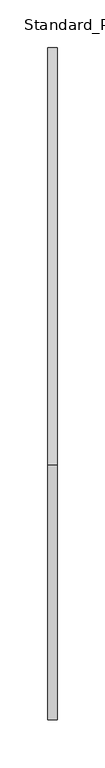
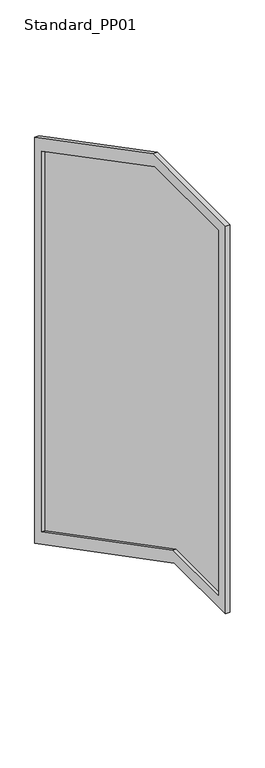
"""IFC4 building model written with IfcOpenShell, lengths in millimetres: railing geometry, Baluster-Landing-Panel-VIVA-STRUC-Lower : Standard_PP01."""

from ifc_helpers import new_model, si_unit, frame, origin, place, context, project, spatial, polyline, outline, extrude, source, transform, mapped, element, save


def standard_pp01_c8bfe862(model_context):
    return source(origin(), model_context, "Body", "SweptSolid", [
        extrude(outline(polyline([(-508.8760777, 86.8304592), (-676.4363344, 86.8304592), (-676.4363344, 906.145), (-441.4187834, 906.145), (-25.4, 689.579329), (-25.4, -164.8512566), (-508.8760777, 86.8304592)])), frame((14.2584857, 0.0, 0.0), z_axis=(1.0, 0.0, 0.0), x_axis=(0.0, 1.0, 0.0)), (0.0, 0.0, 1.0), 2.9972),
        extrude(outline(polyline([(0.0, -206.7091611), (-515.0914182, 61.4304592), (-701.8363344, 61.4304592), (-701.8363344, 931.545), (-435.2034429, 931.545), (0.0, 704.9924273), (0.0, -206.7091611)]), holes=[polyline([(-676.4363344, 906.145), (-676.4363344, 86.8304592), (-508.8760777, 86.8304592), (-25.4, -164.8512566), (-25.4, 689.579329), (-441.4187834, 906.145), (-676.4363344, 906.145)])]), frame((7.6036857, 0.0, 0.0), z_axis=(1.0, 0.0, 0.0), x_axis=(0.0, 1.0, 0.0)), (0.0, 0.0, 1.0), 9.652),
    ])


if __name__ == "__main__":
    model = new_model("IFC4")
    model_context = context("Model", 3, world=origin())
    ifc_project = project(units=[si_unit("LENGTHUNIT", "METRE", prefix="MILLI")], contexts=[model_context])
    site = spatial("IfcSite", under=ifc_project)
    building = spatial("IfcBuilding", under=site)
    placement = place(None, origin())
    standard_pp01_shape = standard_pp01_c8bfe862(model_context)
    element("IfcRailing", 1, ObjectType="Baluster-Landing-Panel-VIVA-STRUC-Lower : Standard_PP01", at=placement, inside=building, context=model_context, shape_type="MappedRepresentation", body=[
        mapped(standard_pp01_shape, transform((0.0, 0.0, 0.0), x_axis=(1.0, 0.0, 0.0), y_axis=(0.0, 1.0, 0.0), z_axis=(0.0, 0.0, 1.0))),
    ])
    save(model, "model.ifc")
